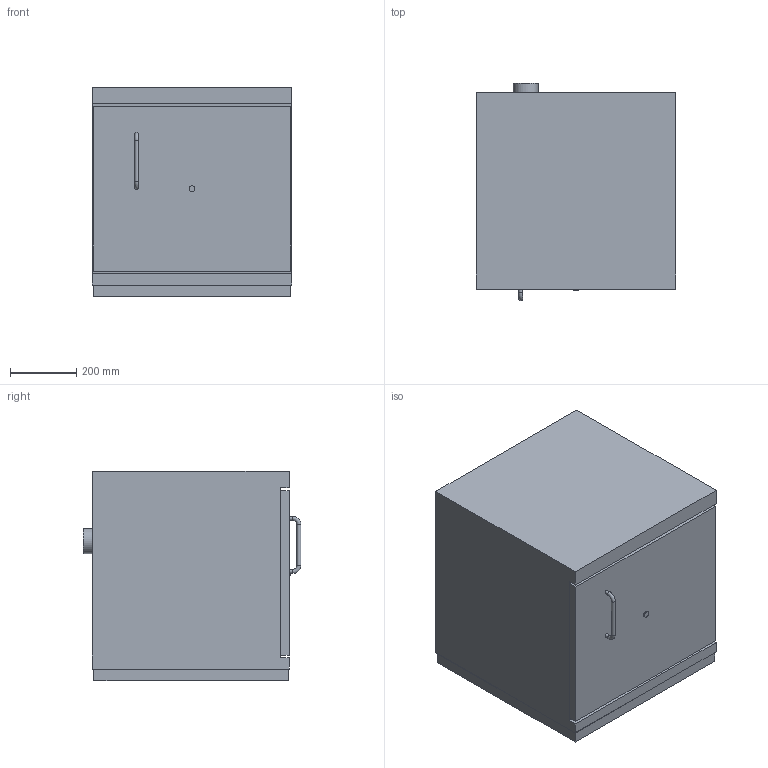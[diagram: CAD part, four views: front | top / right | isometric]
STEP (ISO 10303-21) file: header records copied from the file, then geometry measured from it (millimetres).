
FILE_DESCRIPTION(/* description */ ('Unknown'),/* implementation_level */ '2;1');
FILE_NAME(/* name */ '29-060667_VDK',/* time_stamp */ '2019-04-10T11:55:34+02:00',/* author */ ('Unknown'),/* organization */ ('Unknown'),/* preprocessor_version */ 'ST-DEVELOPER v16.7',/* originating_system */ 'DEX',/* authorisation */ $);
FILE_SCHEMA (('AUTOMOTIVE_DESIGN {1 0 10303 214 3 1 1}'));
Length unit declared in the file: millimetre
Products named in the file (1): 29-060667_VDK
Bounding box: 601 x 656 x 631 mm (x, y, z)
Volume: 224562185.7 mm3; surface area: 2298952.5 mm2
Topology: 1 solids, 1 shells, 31 faces, 71 edges, 47 vertices
Faces by surface type: plane 23, cylinder 6, torus 2
Full cylindrical faces by diameter (mm): 12 x3, 18 x1, 75 x2
Entity records: 1049 total; most frequent: DIRECTION 136, CARTESIAN_POINT 136, ORIENTED_EDGE 120, EDGE_CURVE 60, LINE 48, VECTOR 48, EDGE_LOOP 46, FACE_BOUND 46
